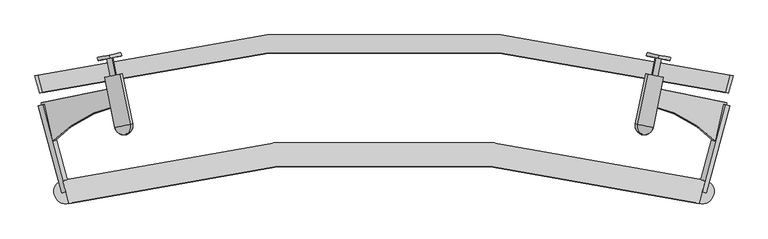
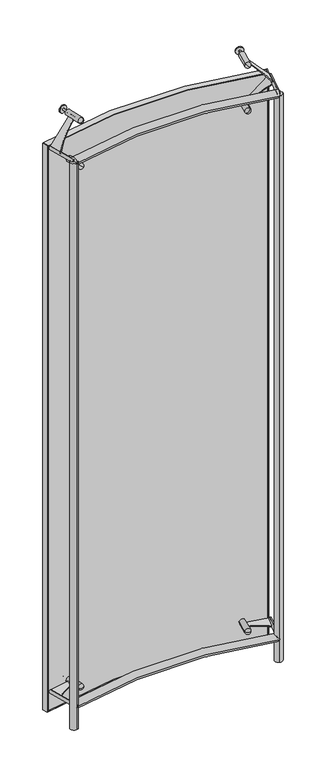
"""IFC4 building model written with IfcOpenShell, lengths in millimetres: plate geometry, CONVEX_SPIDER : CONVEX_SPIDER."""

from ifc_helpers import new_model, si_unit, point, frame, frame_2d, origin, origin_with_axes, place, context, project, spatial, polyline, circle_curve, ellipse_curve, trimmed, segment, composite_curve, outline, extrude, source, transform, mapped, element, save
from ifc_brep_helpers import plane_surface, cylinder_surface, revolved_surface, advanced_brep


def plate_ec1fb357(model_context):
    return source(origin(), model_context, "Body", "SolidModel", [
        extrude(outline(composite_curve([segment(polyline([(-30.0, 0.0), (0.0, 0.0)]), True, "CONTINUOUS"), segment(trimmed(circle_curve(frame_2d((375.1980995, -8.229243)), 375.2883348), [point((0.0, 0.0))], [point((39.9999999, -177.0))], True, "CARTESIAN"), True, "CONTINUOUS"), segment(polyline([(39.9999999, -177.0), (-30.0, -177.0), (-30.0, 0.0)]), True, "CONTINUOUS")], self_intersect=False)), frame((-439.3509091, -48.2745444, 3228.232233), z_axis=(-0.692345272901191, -0.14372899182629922, 0.7071067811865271), x_axis=(0.2032634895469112, -0.9791240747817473, 0.0)), (0.0, 0.0, 1.0), 5.0),
        advanced_brep(
        [(-457.3428515, 29.6960591, 3230.0), (-460.8045778, 28.9774141, 3226.4644661), (-453.8811251, 30.4147041, 3233.5355339), (-440.8597677, 2.4782717, 3240.6066017), (-461.6301259, -1.833598, 3219.3933983), (-444.3527293, -85.0591444, 3219.3933983), (-423.5823711, -80.7472746, 3240.6066017), (-447.7832204, 1.0409818, 3233.5355339), (-454.7066732, -0.3963081, 3226.4644661), (-430.9185978, -97.5900706, 3230.0)],
        [
            (0, 1),
            (1, 2, circle_curve(frame((-457.3428515, 29.6960591, 3230.0), z_axis=(-0.20326348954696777, 0.9791240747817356, 0.0), x_axis=(-0.6923452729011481, -0.14372899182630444, -0.707106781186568)), 5.0)),
            (2, 0),
            (2, 1, circle_curve(frame((-457.3428515, 29.6960591, 3230.0), z_axis=(-0.20326348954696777, 0.9791240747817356, 0.0), x_axis=(-0.6923452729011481, -0.14372899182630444, -0.707106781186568)), 5.0)),
            (3, 4, circle_curve(frame((-451.2449468, 0.3223369, 3230.0), z_axis=(0.20326348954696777, -0.9791240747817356, 0.0), x_axis=(-0.6923452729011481, -0.14372899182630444, -0.707106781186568)), 15.0)),
            (4, 5),
            (5, 6, circle_curve(frame((-433.9675502, -82.9032095, 3230.0), z_axis=(-0.20326348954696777, 0.9791240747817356, 0.0), x_axis=(-0.6923452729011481, -0.14372899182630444, -0.707106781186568)), 15.0)),
            (6, 3),
            (4, 3, circle_curve(frame((-451.2449468, 0.3223369, 3230.0), z_axis=(0.20326348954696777, -0.9791240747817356, 0.0), x_axis=(-0.6923452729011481, -0.14372899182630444, -0.707106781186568)), 15.0)),
            (6, 5, circle_curve(frame((-433.9675502, -82.9032095, 3230.0), z_axis=(-0.20326348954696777, 0.9791240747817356, 0.0), x_axis=(-0.6923452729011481, -0.14372899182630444, -0.707106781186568)), 15.0)),
            (7, 8, circle_curve(frame((-451.2449468, 0.3223369, 3230.0), z_axis=(0.20326348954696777, -0.9791240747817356, 0.0), x_axis=(-0.6923452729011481, -0.14372899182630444, -0.707106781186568)), 5.0)),
            (8, 4),
            (3, 7),
            (8, 7, circle_curve(frame((-451.2449468, 0.3223369, 3230.0), z_axis=(0.20326348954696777, -0.9791240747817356, 0.0), x_axis=(-0.6923452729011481, -0.14372899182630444, -0.707106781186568)), 5.0)),
            (1, 8),
            (7, 2),
            (5, 9, circle_curve(frame((-433.9675502, -82.9032095, 3230.0), z_axis=(-0.6923452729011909, -0.1437289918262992, 0.707106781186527), x_axis=(-0.6923452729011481, -0.14372899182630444, -0.707106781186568)), 15.0)),
            (9, 6, circle_curve(frame((-433.9675502, -82.9032095, 3230.0), z_axis=(-0.6923452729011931, -0.14372899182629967, 0.7071067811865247), x_axis=(0.6923452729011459, 0.14372899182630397, 0.7071067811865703)), 15.0)),
        ],
        [
            plane_surface(frame((-457.3428515, 29.6960591, 3230.0), z_axis=(-0.20326348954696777, 0.9791240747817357, 0.0), x_axis=(-0.6923452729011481, -0.14372899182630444, -0.707106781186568))),
            cylinder_surface(frame((-509.1750413, 279.3726982, 3230.0), z_axis=(-0.20326348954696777, 0.9791240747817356, 0.0), x_axis=(-0.6923452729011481, -0.14372899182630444, -0.707106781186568)), 15.0),
            plane_surface(frame((-451.2449468, 0.3223369, 3230.0), z_axis=(-0.20326348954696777, 0.9791240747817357, 0.0), x_axis=(-0.6923452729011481, -0.14372899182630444, -0.707106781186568))),
            cylinder_surface(frame((-509.1750413, 279.3726982, 3230.0), z_axis=(-0.20326348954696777, 0.9791240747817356, 0.0), x_axis=(-0.6923452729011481, -0.14372899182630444, -0.707106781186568)), 5.0),
            revolved_surface(trimmed(ellipse_curve(frame((-433.9675502, -82.9032095, 3230.0), z_axis=(0.6923452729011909, 0.1437289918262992, -0.707106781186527), x_axis=(-0.6923452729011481, -0.14372899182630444, -0.707106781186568)), 15.0, 15.0), [point((-430.9185978, -97.5900706, 3230.0))], [point((-444.3527293, -85.0591444, 3219.3933983))], True, "CARTESIAN"), (-509.1750413, 279.3726982, 3230.0), (-0.20326348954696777, 0.9791240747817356, 0.0)),
        ],
        [
            (0, [[1, 2, 3]]),
            (0, [[-3, 4, -1]]),
            (1, [[5, 6, 7, 8]]),
            (1, [[9, -8, 10, -6]]),
            (2, [[11, 12, -5, 13]]),
            (2, [[14, -13, -9, -12]]),
            (3, [[-2, 15, -11, 16]]),
            (3, [[-4, -16, -14, -15]]),
            (4, [[-7, 17, 18]]),
            (4, [[-10, -18, -17]]),
        ],
    ),
        extrude(outline(composite_curve([segment(polyline([(-30.0, 0.0), (-30.0, 177.0), (39.9999999, 177.0)]), True, "CONTINUOUS"), segment(trimmed(circle_curve(frame_2d((375.1980995, 8.229243)), 375.2883348), [point((39.9999999, 177.0))], [point((0.0, 0.0))], True, "CARTESIAN"), True, "CONTINUOUS"), segment(polyline([(0.0, 0.0), (-30.0, 0.0)]), True, "CONTINUOUS")], self_intersect=False)), frame((439.3509091, -48.2745444, 3228.232233), z_axis=(0.6923452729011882, -0.14372899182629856, 0.7071067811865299), x_axis=(-0.2032634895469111, -0.9791240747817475, 0.0)), (0.0, 0.0, 1.0), 5.0),
        advanced_brep(
        [(457.3428515, 29.6960591, 3230.0), (453.8811251, 30.4147041, 3233.5355339), (460.8045778, 28.9774141, 3226.4644661), (440.8597677, 2.4782717, 3240.6066017), (423.5823711, -80.7472746, 3240.6066017), (444.3527293, -85.0591444, 3219.3933983), (461.6301259, -1.833598, 3219.3933983), (447.7832204, 1.0409818, 3233.5355339), (454.7066732, -0.3963081, 3226.4644661), (430.9185978, -97.5900706, 3230.0)],
        [
            (0, 1),
            (1, 2, circle_curve(frame((457.3428515, 29.6960591, 3230.0), z_axis=(0.20326348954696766, 0.9791240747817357, 0.0), x_axis=(0.6923452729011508, -0.1437289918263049, -0.7071067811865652)), 5.0)),
            (2, 0),
            (2, 1, circle_curve(frame((457.3428515, 29.6960591, 3230.0), z_axis=(0.20326348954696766, 0.9791240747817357, 0.0), x_axis=(0.6923452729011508, -0.1437289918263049, -0.7071067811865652)), 5.0)),
            (3, 4),
            (4, 5, circle_curve(frame((433.9675502, -82.9032095, 3230.0), z_axis=(0.20326348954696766, 0.9791240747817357, 0.0), x_axis=(0.6923452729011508, -0.1437289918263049, -0.7071067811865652)), 15.0)),
            (5, 6),
            (6, 3, circle_curve(frame((451.2449468, 0.3223369, 3230.0), z_axis=(-0.20326348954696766, -0.9791240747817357, 0.0), x_axis=(0.6923452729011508, -0.1437289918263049, -0.7071067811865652)), 15.0)),
            (5, 4, circle_curve(frame((433.9675502, -82.9032095, 3230.0), z_axis=(0.20326348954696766, 0.9791240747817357, 0.0), x_axis=(0.6923452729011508, -0.1437289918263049, -0.7071067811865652)), 15.0)),
            (3, 6, circle_curve(frame((451.2449468, 0.3223369, 3230.0), z_axis=(-0.20326348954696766, -0.9791240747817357, 0.0), x_axis=(0.6923452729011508, -0.1437289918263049, -0.7071067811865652)), 15.0)),
            (7, 3),
            (6, 8),
            (8, 7, circle_curve(frame((451.2449468, 0.3223369, 3230.0), z_axis=(-0.20326348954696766, -0.9791240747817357, 0.0), x_axis=(0.6923452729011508, -0.1437289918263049, -0.7071067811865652)), 5.0)),
            (7, 8, circle_curve(frame((451.2449468, 0.3223369, 3230.0), z_axis=(-0.20326348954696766, -0.9791240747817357, 0.0), x_axis=(0.6923452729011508, -0.1437289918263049, -0.7071067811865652)), 5.0)),
            (1, 7),
            (8, 2),
            (4, 9, circle_curve(frame((433.9675502, -82.9032095, 3230.0), z_axis=(0.6923452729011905, -0.14372899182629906, 0.7071067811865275), x_axis=(-0.6923452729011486, 0.14372899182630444, 0.7071067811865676)), 15.0)),
            (9, 5, circle_curve(frame((433.9675502, -82.9032095, 3230.0), z_axis=(0.6923452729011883, -0.14372899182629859, 0.7071067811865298), x_axis=(0.6923452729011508, -0.1437289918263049, -0.7071067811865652)), 15.0)),
        ],
        [
            plane_surface(frame((457.3428515, 29.6960591, 3230.0), z_axis=(0.20326348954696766, 0.9791240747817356, 0.0), x_axis=(0.6923452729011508, -0.1437289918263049, -0.7071067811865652))),
            cylinder_surface(frame((509.1750413, 279.3726982, 3230.0), z_axis=(0.20326348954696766, 0.9791240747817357, 0.0), x_axis=(0.6923452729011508, -0.1437289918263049, -0.7071067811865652)), 15.0),
            plane_surface(frame((451.2449468, 0.3223369, 3230.0), z_axis=(0.20326348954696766, 0.9791240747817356, 0.0), x_axis=(0.6923452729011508, -0.1437289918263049, -0.7071067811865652))),
            cylinder_surface(frame((509.1750413, 279.3726982, 3230.0), z_axis=(0.20326348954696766, 0.9791240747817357, 0.0), x_axis=(0.6923452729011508, -0.1437289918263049, -0.7071067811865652)), 5.0),
            revolved_surface(trimmed(ellipse_curve(frame((433.9675502, -82.9032095, 3230.0), z_axis=(0.6923452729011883, -0.14372899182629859, 0.7071067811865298), x_axis=(0.6923452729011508, -0.1437289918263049, -0.7071067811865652)), 15.0, 15.0), [point((430.9185978, -97.5900706, 3230.0))], [point((444.3527293, -85.0591444, 3219.3933983))], True, "CARTESIAN"), (509.1750413, 279.3726982, 3230.0), (0.20326348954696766, 0.9791240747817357, 0.0)),
        ],
        [
            (0, [[1, 2, 3]]),
            (0, [[-3, 4, -1]]),
            (1, [[5, 6, 7, 8]]),
            (1, [[-7, 9, -5, 10]]),
            (2, [[11, -8, 12, 13]]),
            (2, [[-12, -10, -11, 14]]),
            (3, [[15, -13, 16, -2]]),
            (3, [[-16, -14, -15, -4]]),
            (4, [[17, 18, -6]]),
            (4, [[-18, -17, -9]]),
        ],
    ),
        extrude(outline(composite_curve([segment(polyline([(30.0000001, 0.0), (30.0, -177.0), (-40.0, -177.0)]), True, "CONTINUOUS"), segment(trimmed(circle_curve(frame_2d((-375.1980994, -8.2292431)), 375.2883348), [point((-40.0, -177.0))], [point((0.0, 0.0))], True, "CARTESIAN"), True, "CONTINUOUS"), segment(polyline([(0.0, 0.0), (30.0000001, 0.0)]), True, "CONTINUOUS")], self_intersect=False)), frame((442.8126355, -48.9931894, 2978.232233), z_axis=(-0.6923452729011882, 0.14372899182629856, 0.7071067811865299), x_axis=(0.2032634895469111, 0.9791240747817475, 0.0)), (0.0, 0.0, 1.0), 5.0),
        advanced_brep(
        [(457.3428515, 29.6960591, 2980.0), (460.8045778, 28.9774141, 2983.5355339), (453.8811251, 30.4147041, 2976.4644661), (440.8597677, 2.4782717, 2969.3933983), (461.6301259, -1.833598, 2990.6066017), (444.3527293, -85.0591444, 2990.6066017), (423.5823711, -80.7472746, 2969.3933983), (447.7832204, 1.0409818, 2976.4644661), (454.7066732, -0.3963081, 2983.5355339), (430.9185978, -97.5900706, 2980.0)],
        [
            (0, 1),
            (1, 2, circle_curve(frame((457.3428515, 29.6960591, 2980.0), z_axis=(0.20326348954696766, 0.9791240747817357, 0.0), x_axis=(0.6923452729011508, -0.1437289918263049, 0.7071067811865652)), 5.0)),
            (2, 0),
            (2, 1, circle_curve(frame((457.3428515, 29.6960591, 2980.0), z_axis=(0.20326348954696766, 0.9791240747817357, 0.0), x_axis=(0.6923452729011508, -0.1437289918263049, 0.7071067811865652)), 5.0)),
            (3, 4, circle_curve(frame((451.2449468, 0.3223369, 2980.0), z_axis=(-0.20326348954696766, -0.9791240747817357, 0.0), x_axis=(0.6923452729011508, -0.1437289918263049, 0.7071067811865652)), 15.0)),
            (4, 5),
            (5, 6, circle_curve(frame((433.9675502, -82.9032095, 2980.0), z_axis=(0.20326348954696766, 0.9791240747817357, 0.0), x_axis=(0.6923452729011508, -0.1437289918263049, 0.7071067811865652)), 15.0)),
            (6, 3),
            (4, 3, circle_curve(frame((451.2449468, 0.3223369, 2980.0), z_axis=(-0.20326348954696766, -0.9791240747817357, 0.0), x_axis=(0.6923452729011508, -0.1437289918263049, 0.7071067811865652)), 15.0)),
            (6, 5, circle_curve(frame((433.9675502, -82.9032095, 2980.0), z_axis=(0.20326348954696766, 0.9791240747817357, 0.0), x_axis=(0.6923452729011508, -0.1437289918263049, 0.7071067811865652)), 15.0)),
            (7, 8, circle_curve(frame((451.2449468, 0.3223369, 2980.0), z_axis=(-0.20326348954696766, -0.9791240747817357, 0.0), x_axis=(0.6923452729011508, -0.1437289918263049, 0.7071067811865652)), 5.0)),
            (8, 4),
            (3, 7),
            (8, 7, circle_curve(frame((451.2449468, 0.3223369, 2980.0), z_axis=(-0.20326348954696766, -0.9791240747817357, 0.0), x_axis=(0.6923452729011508, -0.1437289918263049, 0.7071067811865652)), 5.0)),
            (1, 8),
            (7, 2),
            (5, 9, circle_curve(frame((433.9675502, -82.9032095, 2980.0), z_axis=(0.6923452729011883, -0.14372899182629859, -0.7071067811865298), x_axis=(0.6923452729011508, -0.1437289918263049, 0.7071067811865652)), 15.0)),
            (9, 6, circle_curve(frame((433.9675502, -82.9032095, 2980.0), z_axis=(0.6923452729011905, -0.14372899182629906, -0.7071067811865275), x_axis=(-0.6923452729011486, 0.14372899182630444, -0.7071067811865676)), 15.0)),
        ],
        [
            plane_surface(frame((457.3428515, 29.6960591, 2980.0), z_axis=(0.20326348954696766, 0.9791240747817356, 0.0), x_axis=(0.6923452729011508, -0.1437289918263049, 0.7071067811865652))),
            cylinder_surface(frame((509.1750413, 279.3726982, 2980.0), z_axis=(0.20326348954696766, 0.9791240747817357, 0.0), x_axis=(0.6923452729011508, -0.1437289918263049, 0.7071067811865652)), 15.0),
            plane_surface(frame((451.2449468, 0.3223369, 2980.0), z_axis=(0.20326348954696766, 0.9791240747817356, 0.0), x_axis=(0.6923452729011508, -0.1437289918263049, 0.7071067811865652))),
            cylinder_surface(frame((509.1750413, 279.3726982, 2980.0), z_axis=(0.20326348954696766, 0.9791240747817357, 0.0), x_axis=(0.6923452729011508, -0.1437289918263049, 0.7071067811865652)), 5.0),
            revolved_surface(trimmed(ellipse_curve(frame((433.9675502, -82.9032095, 2980.0), z_axis=(-0.6923452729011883, 0.14372899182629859, 0.7071067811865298), x_axis=(0.6923452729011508, -0.1437289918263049, 0.7071067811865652)), 15.0, 15.0), [point((430.9185978, -97.5900706, 2980.0))], [point((444.3527293, -85.0591444, 2990.6066017))], True, "CARTESIAN"), (509.1750413, 279.3726982, 2980.0), (0.20326348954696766, 0.9791240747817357, 0.0)),
        ],
        [
            (0, [[1, 2, 3]]),
            (0, [[-3, 4, -1]]),
            (1, [[5, 6, 7, 8]]),
            (1, [[9, -8, 10, -6]]),
            (2, [[11, 12, -5, 13]]),
            (2, [[14, -13, -9, -12]]),
            (3, [[-2, 15, -11, 16]]),
            (3, [[-4, -16, -14, -15]]),
            (4, [[-7, 17, 18]]),
            (4, [[-10, -18, -17]]),
        ],
    ),
        extrude(outline(composite_curve([segment(polyline([(30.0000001, 0.0), (0.0, 0.0)]), True, "CONTINUOUS"), segment(trimmed(circle_curve(frame_2d((-375.1980994, 8.2292431)), 375.2883348), [point((0.0, 0.0))], [point((-40.0, 177.0))], True, "CARTESIAN"), True, "CONTINUOUS"), segment(polyline([(-40.0, 177.0), (30.0, 177.0), (30.0000001, 0.0)]), True, "CONTINUOUS")], self_intersect=False)), frame((-442.8126355, -48.9931894, 2978.232233), z_axis=(0.692345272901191, 0.14372899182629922, 0.7071067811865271), x_axis=(-0.2032634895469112, 0.9791240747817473, 0.0)), (0.0, 0.0, 1.0), 5.0),
        advanced_brep(
        [(-457.3428515, 29.6960591, 2980.0), (-453.8811251, 30.4147041, 2976.4644661), (-460.8045778, 28.9774141, 2983.5355339), (-440.8597677, 2.4782717, 2969.3933983), (-423.5823711, -80.7472746, 2969.3933983), (-444.3527293, -85.0591444, 2990.6066017), (-461.6301259, -1.833598, 2990.6066017), (-447.7832204, 1.0409818, 2976.4644661), (-454.7066732, -0.3963081, 2983.5355339), (-430.9185978, -97.5900706, 2980.0)],
        [
            (0, 1),
            (1, 2, circle_curve(frame((-457.3428515, 29.6960591, 2980.0), z_axis=(-0.20326348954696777, 0.9791240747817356, 0.0), x_axis=(-0.6923452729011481, -0.14372899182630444, 0.707106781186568)), 5.0)),
            (2, 0),
            (2, 1, circle_curve(frame((-457.3428515, 29.6960591, 2980.0), z_axis=(-0.20326348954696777, 0.9791240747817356, 0.0), x_axis=(-0.6923452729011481, -0.14372899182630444, 0.707106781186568)), 5.0)),
            (3, 4),
            (4, 5, circle_curve(frame((-433.9675502, -82.9032095, 2980.0), z_axis=(-0.20326348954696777, 0.9791240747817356, 0.0), x_axis=(-0.6923452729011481, -0.14372899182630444, 0.707106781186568)), 15.0)),
            (5, 6),
            (6, 3, circle_curve(frame((-451.2449468, 0.3223369, 2980.0), z_axis=(0.20326348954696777, -0.9791240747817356, 0.0), x_axis=(-0.6923452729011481, -0.14372899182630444, 0.707106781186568)), 15.0)),
            (5, 4, circle_curve(frame((-433.9675502, -82.9032095, 2980.0), z_axis=(-0.20326348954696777, 0.9791240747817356, 0.0), x_axis=(-0.6923452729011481, -0.14372899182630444, 0.707106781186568)), 15.0)),
            (3, 6, circle_curve(frame((-451.2449468, 0.3223369, 2980.0), z_axis=(0.20326348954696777, -0.9791240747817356, 0.0), x_axis=(-0.6923452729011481, -0.14372899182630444, 0.707106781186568)), 15.0)),
            (7, 3),
            (6, 8),
            (8, 7, circle_curve(frame((-451.2449468, 0.3223369, 2980.0), z_axis=(0.20326348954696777, -0.9791240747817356, 0.0), x_axis=(-0.6923452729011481, -0.14372899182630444, 0.707106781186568)), 5.0)),
            (7, 8, circle_curve(frame((-451.2449468, 0.3223369, 2980.0), z_axis=(0.20326348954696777, -0.9791240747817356, 0.0), x_axis=(-0.6923452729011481, -0.14372899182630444, 0.707106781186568)), 5.0)),
            (1, 7),
            (8, 2),
            (4, 9, circle_curve(frame((-433.9675502, -82.9032095, 2980.0), z_axis=(-0.6923452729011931, -0.14372899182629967, -0.7071067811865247), x_axis=(0.6923452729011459, 0.14372899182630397, -0.7071067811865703)), 15.0)),
            (9, 5, circle_curve(frame((-433.9675502, -82.9032095, 2980.0), z_axis=(-0.6923452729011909, -0.1437289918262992, -0.707106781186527), x_axis=(-0.6923452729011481, -0.14372899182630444, 0.707106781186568)), 15.0)),
        ],
        [
            plane_surface(frame((-457.3428515, 29.6960591, 2980.0), z_axis=(-0.20326348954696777, 0.9791240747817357, 0.0), x_axis=(-0.6923452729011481, -0.14372899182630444, 0.707106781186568))),
            cylinder_surface(frame((-509.1750413, 279.3726982, 2980.0), z_axis=(-0.20326348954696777, 0.9791240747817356, 0.0), x_axis=(-0.6923452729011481, -0.14372899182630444, 0.707106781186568)), 15.0),
            plane_surface(frame((-451.2449468, 0.3223369, 2980.0), z_axis=(-0.20326348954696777, 0.9791240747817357, 0.0), x_axis=(-0.6923452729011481, -0.14372899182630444, 0.707106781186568))),
            cylinder_surface(frame((-509.1750413, 279.3726982, 2980.0), z_axis=(-0.20326348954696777, 0.9791240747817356, 0.0), x_axis=(-0.6923452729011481, -0.14372899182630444, 0.707106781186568)), 5.0),
            revolved_surface(trimmed(ellipse_curve(frame((-433.9675502, -82.9032095, 2980.0), z_axis=(-0.6923452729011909, -0.1437289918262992, -0.707106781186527), x_axis=(-0.6923452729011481, -0.14372899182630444, 0.707106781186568)), 15.0, 15.0), [point((-430.9185978, -97.5900706, 2980.0))], [point((-444.3527293, -85.0591444, 2990.6066017))], True, "CARTESIAN"), (-509.1750413, 279.3726982, 2980.0), (-0.20326348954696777, 0.9791240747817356, 0.0)),
        ],
        [
            (0, [[1, 2, 3]]),
            (0, [[-3, 4, -1]]),
            (1, [[5, 6, 7, 8]]),
            (1, [[-7, 9, -5, 10]]),
            (2, [[11, -8, 12, 13]]),
            (2, [[-12, -10, -11, 14]]),
            (3, [[15, -13, 16, -2]]),
            (3, [[-16, -14, -15, -4]]),
            (4, [[17, 18, -6]]),
            (4, [[-18, -17, -9]]),
        ],
    ),
        extrude(outline(composite_curve([segment(polyline([(447.179677, -19.2601446), (569.5701864, -44.6680808), (555.3417421, -113.2067661)]), True, "CONTINUOUS"), segment(trimmed(circle_curve(frame_2d((390.5270633, -271.4654216)), 228.4943772), [point((555.3417421, -113.2067661))], [point((441.0817723, -48.6338669))], True, "CARTESIAN"), True, "CONTINUOUS"), segment(polyline([(441.0817723, -48.6338669), (447.179677, -19.2601446)]), True, "CONTINUOUS")], self_intersect=False)), frame((0.0, 0.0, 122.5), z_axis=(0.0, 0.0, 1.0), x_axis=(1.0, 0.0, 0.0)), (0.0, 0.0, 1.0), 5.0),
        advanced_brep(
        [(457.3428515, 29.6960591, 125.0), (462.2384719, 28.6797417, 125.0), (452.4472311, 30.7123766, 125.0), (436.5580857, 3.3712892, 125.0), (465.9318079, -2.7266155, 125.0), (448.6544113, -85.9521618, 125.0), (419.2806891, -79.8542571, 125.0), (446.3493264, 1.3386543, 125.0), (456.1405672, -0.6939806, 125.0), (430.9185978, -97.5900706, 125.0)],
        [
            (0, 1),
            (1, 2, circle_curve(frame((457.3428515, 29.6960591, 125.0), z_axis=(0.20326348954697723, 0.9791240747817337, 0.0), x_axis=(0.9791240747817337, -0.20326348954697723, 0.0)), 5.0)),
            (2, 0),
            (2, 1, circle_curve(frame((457.3428515, 29.6960591, 125.0), z_axis=(0.20326348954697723, 0.9791240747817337, 0.0), x_axis=(0.9791240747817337, -0.20326348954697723, 0.0)), 5.0)),
            (3, 4, circle_curve(frame((451.2449468, 0.3223369, 125.0), z_axis=(-0.20326348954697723, -0.9791240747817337, 0.0), x_axis=(0.9791240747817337, -0.20326348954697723, 0.0)), 15.0)),
            (4, 5),
            (5, 6, circle_curve(frame((433.9675502, -82.9032095, 125.0), z_axis=(0.20326348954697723, 0.9791240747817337, 0.0), x_axis=(0.9791240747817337, -0.20326348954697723, 0.0)), 15.0)),
            (6, 3),
            (4, 3, circle_curve(frame((451.2449468, 0.3223369, 125.0), z_axis=(-0.20326348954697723, -0.9791240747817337, 0.0), x_axis=(0.9791240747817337, -0.20326348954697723, 0.0)), 15.0)),
            (6, 5, circle_curve(frame((433.9675502, -82.9032095, 125.0), z_axis=(0.20326348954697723, 0.9791240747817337, 0.0), x_axis=(0.9791240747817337, -0.20326348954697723, 0.0)), 15.0)),
            (7, 8, circle_curve(frame((451.2449468, 0.3223369, 125.0), z_axis=(-0.20326348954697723, -0.9791240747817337, 0.0), x_axis=(0.9791240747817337, -0.20326348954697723, 0.0)), 5.0)),
            (8, 4),
            (3, 7),
            (8, 7, circle_curve(frame((451.2449468, 0.3223369, 125.0), z_axis=(-0.20326348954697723, -0.9791240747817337, 0.0), x_axis=(0.9791240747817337, -0.20326348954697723, 0.0)), 5.0)),
            (1, 8),
            (7, 2),
            (5, 9, circle_curve(frame((433.9675502, -82.9032095, 125.0), z_axis=(0.0, 0.0, -1.0000000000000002), x_axis=(0.9791240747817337, -0.20326348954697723, 0.0)), 15.0)),
            (9, 6, circle_curve(frame((433.9675502, -82.9032095, 125.0), z_axis=(0.0, 0.0, -1.0000000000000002), x_axis=(-0.9791240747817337, 0.20326348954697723, 0.0)), 15.0)),
        ],
        [
            plane_surface(frame((457.3428515, 29.6960591, 125.0), z_axis=(0.20326348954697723, 0.9791240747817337, 0.0), x_axis=(0.9791240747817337, -0.20326348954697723, 0.0))),
            cylinder_surface(frame((509.1750413, 279.3726982, 125.0), z_axis=(0.20326348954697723, 0.9791240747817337, 0.0), x_axis=(0.9791240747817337, -0.20326348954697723, 0.0)), 15.0),
            plane_surface(frame((451.2449468, 0.3223369, 125.0), z_axis=(0.20326348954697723, 0.9791240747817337, 0.0), x_axis=(0.9791240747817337, -0.20326348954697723, 0.0))),
            cylinder_surface(frame((509.1750413, 279.3726982, 125.0), z_axis=(0.20326348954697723, 0.9791240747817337, 0.0), x_axis=(0.9791240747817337, -0.20326348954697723, 0.0)), 5.0),
            revolved_surface(trimmed(ellipse_curve(frame((433.9675502, -82.9032095, 125.0), z_axis=(0.0, 0.0, 1.0000000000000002), x_axis=(0.9791240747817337, -0.20326348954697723, 0.0)), 15.0, 15.0), [point((430.9185978, -97.5900706, 125.0))], [point((448.6544113, -85.9521618, 125.0))], True, "CARTESIAN"), (509.1750413, 279.3726982, 125.0), (0.20326348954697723, 0.9791240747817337, 0.0)),
        ],
        [
            (0, [[1, 2, 3]]),
            (0, [[-3, 4, -1]]),
            (1, [[5, 6, 7, 8]]),
            (1, [[9, -8, 10, -6]]),
            (2, [[11, 12, -5, 13]]),
            (2, [[14, -13, -9, -12]]),
            (3, [[-2, 15, -11, 16]]),
            (3, [[-4, -16, -14, -15]]),
            (4, [[-7, 17, 18]]),
            (4, [[-10, -18, -17]]),
        ],
    ),
        extrude(outline(composite_curve([segment(polyline([(-447.179677, -19.2601446), (-441.0817723, -48.6338669)]), True, "CONTINUOUS"), segment(trimmed(circle_curve(frame_2d((-390.5270633, -271.4654216)), 228.4943772), [point((-441.0817723, -48.6338669))], [point((-555.3417421, -113.2067661))], True, "CARTESIAN"), True, "CONTINUOUS"), segment(polyline([(-555.3417421, -113.2067661), (-569.5701864, -44.6680808), (-447.179677, -19.2601446)]), True, "CONTINUOUS")], self_intersect=False)), frame((0.0, 0.0, 122.5), z_axis=(0.0, 0.0, 1.0), x_axis=(1.0, 0.0, 0.0)), (0.0, 0.0, 1.0), 5.0),
        advanced_brep(
        [(-457.3428515, 29.6960591, 125.0), (-462.2384719, 28.6797417, 125.0), (-452.4472311, 30.7123766, 125.0), (-436.5580857, 3.3712892, 125.0), (-465.9318079, -2.7266155, 125.0), (-448.6544113, -85.9521618, 125.0), (-419.2806891, -79.8542571, 125.0), (-446.3493264, 1.3386543, 125.0), (-456.1405672, -0.6939806, 125.0), (-430.9185978, -97.5900706, 125.0)],
        [
            (0, 1),
            (1, 2, circle_curve(frame((-457.3428515, 29.6960591, 125.0), z_axis=(-0.20326348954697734, 0.9791240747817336, 0.0), x_axis=(-0.9791240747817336, -0.20326348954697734, 0.0)), 5.0)),
            (2, 0),
            (2, 1, circle_curve(frame((-457.3428515, 29.6960591, 125.0), z_axis=(-0.20326348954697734, 0.9791240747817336, 0.0), x_axis=(-0.9791240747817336, -0.20326348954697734, 0.0)), 5.0)),
            (3, 4, circle_curve(frame((-451.2449468, 0.3223369, 125.0), z_axis=(0.20326348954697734, -0.9791240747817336, 0.0), x_axis=(-0.9791240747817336, -0.20326348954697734, 0.0)), 15.0)),
            (4, 5),
            (5, 6, circle_curve(frame((-433.9675502, -82.9032095, 125.0), z_axis=(-0.20326348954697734, 0.9791240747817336, 0.0), x_axis=(-0.9791240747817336, -0.20326348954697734, 0.0)), 15.0)),
            (6, 3),
            (4, 3, circle_curve(frame((-451.2449468, 0.3223369, 125.0), z_axis=(0.20326348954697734, -0.9791240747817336, 0.0), x_axis=(-0.9791240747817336, -0.20326348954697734, 0.0)), 15.0)),
            (6, 5, circle_curve(frame((-433.9675502, -82.9032095, 125.0), z_axis=(-0.20326348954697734, 0.9791240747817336, 0.0), x_axis=(-0.9791240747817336, -0.20326348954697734, 0.0)), 15.0)),
            (7, 8, circle_curve(frame((-451.2449468, 0.3223369, 125.0), z_axis=(0.20326348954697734, -0.9791240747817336, 0.0), x_axis=(-0.9791240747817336, -0.20326348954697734, 0.0)), 5.0)),
            (8, 4),
            (3, 7),
            (8, 7, circle_curve(frame((-451.2449468, 0.3223369, 125.0), z_axis=(0.20326348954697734, -0.9791240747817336, 0.0), x_axis=(-0.9791240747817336, -0.20326348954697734, 0.0)), 5.0)),
            (1, 8),
            (7, 2),
            (5, 9, circle_curve(frame((-433.9675502, -82.9032095, 125.0), z_axis=(0.0, 0.0, 1.0), x_axis=(-0.9791240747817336, -0.20326348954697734, 0.0)), 15.0)),
            (9, 6, circle_curve(frame((-433.9675502, -82.9032095, 125.0), z_axis=(0.0, 0.0, 1.0), x_axis=(0.9791240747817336, 0.20326348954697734, 0.0)), 15.0)),
        ],
        [
            plane_surface(frame((-457.3428515, 29.6960591, 125.0), z_axis=(-0.20326348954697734, 0.9791240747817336, 0.0), x_axis=(-0.9791240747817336, -0.20326348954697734, 0.0))),
            cylinder_surface(frame((-509.1750413, 279.3726982, 125.0), z_axis=(-0.20326348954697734, 0.9791240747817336, 0.0), x_axis=(-0.9791240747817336, -0.20326348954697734, 0.0)), 15.0),
            plane_surface(frame((-451.2449468, 0.3223369, 125.0), z_axis=(-0.20326348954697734, 0.9791240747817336, 0.0), x_axis=(-0.9791240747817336, -0.20326348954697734, 0.0))),
            cylinder_surface(frame((-509.1750413, 279.3726982, 125.0), z_axis=(-0.20326348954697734, 0.9791240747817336, 0.0), x_axis=(-0.9791240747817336, -0.20326348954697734, 0.0)), 5.0),
            revolved_surface(trimmed(ellipse_curve(frame((-433.9675502, -82.9032095, 125.0), z_axis=(0.0, 0.0, -1.0), x_axis=(-0.9791240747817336, -0.20326348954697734, 0.0)), 15.0, 15.0), [point((-430.9185978, -97.5900706, 125.0))], [point((-448.6544113, -85.9521618, 125.0))], True, "CARTESIAN"), (-509.1750413, 279.3726982, 125.0), (-0.20326348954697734, 0.9791240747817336, 0.0)),
        ],
        [
            (0, [[1, 2, 3]]),
            (0, [[-3, 4, -1]]),
            (1, [[5, 6, 7, 8]]),
            (1, [[9, -8, 10, -6]]),
            (2, [[11, 12, -5, 13]]),
            (2, [[14, -13, -9, -12]]),
            (3, [[-2, 15, -11, 16]]),
            (3, [[-4, -16, -14, -15]]),
            (4, [[-7, 17, 18]]),
            (4, [[-10, -18, -17]]),
        ],
    ),
        extrude(outline(composite_curve([segment(trimmed(circle_curve(frame_2d((0.0, -7.5)), 7.5), [point((0.0, -15.0))], [point((0.0, 0.0))], False, "CARTESIAN"), True, "CONTINUOUS"), segment(trimmed(circle_curve(frame_2d((0.0, -7.5)), 7.5), [point((0.0, 0.0))], [point((0.0, -15.0))], False, "CARTESIAN"), True, "CONTINUOUS")], self_intersect=False)), frame((-530.5790425, -193.1851653, 3112.5), z_axis=(-0.258819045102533, 0.9659258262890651, 0.0), x_axis=(-0.9659258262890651, -0.258819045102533, 0.0)), (0.0, 0.0, 1.0), 150.0),
        extrude(outline(composite_curve([segment(trimmed(circle_curve(frame_2d((0.0, -7.5)), 7.5), [point((0.0, -15.0))], [point((0.0, 0.0))], False, "CARTESIAN"), True, "CONTINUOUS"), segment(trimmed(circle_curve(frame_2d((0.0, -7.5)), 7.5), [point((0.0, 0.0))], [point((0.0, -15.0))], False, "CARTESIAN"), True, "CONTINUOUS")], self_intersect=False)), frame((530.5392996, -193.1745162, 3112.5), z_axis=(0.2588190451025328, 0.9659258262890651, 0.0), x_axis=(-0.9659258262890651, 0.2588190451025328, 0.0)), (0.0, 0.0, 1.0), 150.0),
        extrude(outline(composite_curve([segment(trimmed(circle_curve(frame_2d((0.0, -20.0)), 20.0), [point((0.0, -40.0))], [point((0.0, 0.0))], False, "CARTESIAN"), True, "CONTINUOUS"), segment(trimmed(circle_curve(frame_2d((0.0, -20.0)), 20.0), [point((0.0, 0.0))], [point((0.0, -40.0))], False, "CARTESIAN"), True, "CONTINUOUS")], self_intersect=False)), frame((-457.3428515, 29.6960591, 3000.0), z_axis=(-0.20326348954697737, 0.9791240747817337, 0.0), x_axis=(-0.9791240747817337, -0.20326348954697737, 0.0)), (0.0, 0.0, 1.0), 5.0),
        extrude(outline(composite_curve([segment(trimmed(circle_curve(frame_2d((0.0, 230.0)), 20.0), [point((0.0, 210.0))], [point((0.0, 250.0))], False, "CARTESIAN"), True, "CONTINUOUS"), segment(trimmed(circle_curve(frame_2d((0.0, 230.0)), 20.0), [point((0.0, 250.0))], [point((0.0, 210.0))], False, "CARTESIAN"), True, "CONTINUOUS")], self_intersect=False)), frame((-457.3428515, 29.6960591, 3000.0), z_axis=(-0.20326348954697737, 0.9791240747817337, 0.0), x_axis=(-0.9791240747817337, -0.20326348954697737, 0.0)), (0.0, 0.0, 1.0), 5.0),
        extrude(outline(composite_curve([segment(trimmed(circle_curve(frame_2d((0.0, -20.0)), 20.0), [point((0.0, -40.0))], [point((0.0, 0.0))], False, "CARTESIAN"), True, "CONTINUOUS"), segment(trimmed(circle_curve(frame_2d((0.0, -20.0)), 20.0), [point((0.0, 0.0))], [point((0.0, -40.0))], False, "CARTESIAN"), True, "CONTINUOUS")], self_intersect=False)), frame((457.3428515, 29.6960591, 3000.0), z_axis=(0.20326348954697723, 0.9791240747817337, 0.0), x_axis=(-0.9791240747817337, 0.20326348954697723, 0.0)), (0.0, 0.0, 1.0), 5.0),
        extrude(outline(composite_curve([segment(trimmed(circle_curve(frame_2d((0.0, 230.0)), 20.0), [point((0.0, 210.0))], [point((0.0, 250.0))], False, "CARTESIAN"), True, "CONTINUOUS"), segment(trimmed(circle_curve(frame_2d((0.0, 230.0)), 20.0), [point((0.0, 250.0))], [point((0.0, 210.0))], False, "CARTESIAN"), True, "CONTINUOUS")], self_intersect=False)), frame((457.3428515, 29.6960591, 3000.0), z_axis=(0.20326348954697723, 0.9791240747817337, 0.0), x_axis=(-0.9791240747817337, 0.20326348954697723, 0.0)), (0.0, 0.0, 1.0), 5.0),
        extrude(outline(polyline([(582.1754441, 0.0506012), (574.4775394, -28.9449548), (569.6449468, -27.6619707), (577.3428515, 1.3335853), (582.1754441, 0.0506012)])), origin_with_axes(), (0.0, 0.0, 1.0), 3105.0),
        extrude(outline(polyline([(-574.4775394, -28.9449548), (-582.1754441, 0.0506012), (-577.3428515, 1.3335853), (-569.6449468, -27.6619707), (-574.4775394, -28.9449548)])), origin_with_axes(), (0.0, 0.0, 1.0), 3105.0),
        extrude(outline(composite_curve([segment(trimmed(circle_curve(frame_2d((0.0, -7.5)), 7.5), [point((0.0, -15.0))], [point((0.0, 0.0))], False, "CARTESIAN"), True, "CONTINUOUS"), segment(trimmed(circle_curve(frame_2d((0.0, -7.5)), 7.5), [point((0.0, 0.0))], [point((0.0, -15.0))], False, "CARTESIAN"), True, "CONTINUOUS")], self_intersect=False)), frame((530.5790425, -193.1851653, 132.5), z_axis=(0.2588190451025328, 0.9659258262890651, 0.0), x_axis=(-0.9659258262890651, 0.2588190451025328, 0.0)), (0.0, 0.0, 1.0), 150.0),
        extrude(outline(composite_curve([segment(trimmed(circle_curve(frame_2d((0.0, -20.0)), 20.0), [point((0.0, -40.0))], [point((0.0, 0.0))], False, "CARTESIAN"), True, "CONTINUOUS"), segment(trimmed(circle_curve(frame_2d((0.0, -20.0)), 20.0), [point((0.0, 0.0))], [point((0.0, -40.0))], False, "CARTESIAN"), True, "CONTINUOUS")], self_intersect=False)), frame((457.3428515, 29.6960591, 145.0), z_axis=(0.20326348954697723, 0.9791240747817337, 0.0), x_axis=(-0.9791240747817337, 0.20326348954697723, 0.0)), (0.0, 0.0, 1.0), 5.0),
        extrude(outline(composite_curve([segment(trimmed(circle_curve(frame_2d((0.0, -7.5)), 7.5), [point((0.0, -15.0))], [point((0.0, 0.0))], False, "CARTESIAN"), True, "CONTINUOUS"), segment(trimmed(circle_curve(frame_2d((0.0, -7.5)), 7.5), [point((0.0, 0.0))], [point((0.0, -15.0))], False, "CARTESIAN"), True, "CONTINUOUS")], self_intersect=False)), frame((-530.5790425, -193.1851653, 132.5), z_axis=(-0.25881904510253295, 0.965925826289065, 0.0), x_axis=(-0.965925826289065, -0.25881904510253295, 0.0)), (0.0, 0.0, 1.0), 150.0),
        extrude(outline(composite_curve([segment(trimmed(circle_curve(frame_2d((0.0, -20.0)), 20.0), [point((0.0, -40.0))], [point((0.0, 0.0))], False, "CARTESIAN"), True, "CONTINUOUS"), segment(trimmed(circle_curve(frame_2d((0.0, -20.0)), 20.0), [point((0.0, 0.0))], [point((0.0, -40.0))], False, "CARTESIAN"), True, "CONTINUOUS")], self_intersect=False)), frame((-457.3428515, 29.6960591, 145.0), z_axis=(-0.20326348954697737, 0.9791240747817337, 0.0), x_axis=(-0.9791240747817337, -0.20326348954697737, 0.0)), (0.0, 0.0, 1.0), 5.0),
        extrude(outline(composite_curve([segment(polyline([(577.3428515, 1.3335853), (569.6449468, -27.6619707)]), True, "CONTINUOUS"), segment(trimmed(circle_curve(frame_2d((0.0, -2173.3331092)), 2220.0), [point((569.6449468, -27.6619707))], [point((-569.6449468, -27.6619707))], True, "CARTESIAN"), True, "CONTINUOUS"), segment(polyline([(-569.6449468, -27.6619707), (-577.3428515, 1.3335853)]), True, "CONTINUOUS"), segment(trimmed(circle_curve(frame_2d((0.0, -2173.3331092)), 2250.0), [point((-577.3428515, 1.3335853))], [point((577.3428515, 1.3335853))], False, "CARTESIAN"), True, "CONTINUOUS")], self_intersect=False)), origin_with_axes(), (0.0, 0.0, 1.0), 5.0),
        extrude(outline(composite_curve([segment(trimmed(circle_curve(frame_2d((0.0, -2173.3331092)), 2220.0), [point((569.6449468, -27.6619707))], [point((-569.6449468, -27.6619707))], True, "CARTESIAN"), True, "CONTINUOUS"), segment(polyline([(-569.6449468, -27.6619707), (-577.3428515, 1.3335853)]), True, "CONTINUOUS"), segment(trimmed(circle_curve(frame_2d((0.0, -2173.3331092)), 2250.0), [point((-577.3428515, 1.3335853))], [point((577.3428515, 1.3335853))], False, "CARTESIAN"), True, "CONTINUOUS"), segment(polyline([(577.3428515, 1.3335853), (569.6449468, -27.6619707)]), True, "CONTINUOUS")], self_intersect=False)), frame((0.0, 0.0, 3100.0), z_axis=(0.0, 0.0, 1.0), x_axis=(1.0, 0.0, 0.0)), (0.0, 0.0, 1.0), 5.0),
        advanced_brep(
        [(525.4026616, -212.5036818, 3105.0), (535.7554234, -173.8666487, 3105.0), (-525.4026616, -212.5036818, 3105.0), (-535.7554234, -173.8666487, 3105.0)],
        [
            (0, 1, circle_curve(frame((530.5790425, -193.1851653, 3105.0), z_axis=(0.9659258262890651, -0.25881904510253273, 0.0), x_axis=(0.25881904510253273, 0.9659258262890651, 0.0)), 20.0)),
            (1, 0, circle_curve(frame((530.5790425, -193.1851653, 3105.0), z_axis=(0.9659258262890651, -0.25881904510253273, 0.0), x_axis=(0.25881904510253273, 0.9659258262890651, 0.0)), 20.0)),
            (2, 3, circle_curve(frame((-530.5790425, -193.1851653, 3105.0), z_axis=(-0.9659258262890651, -0.25881904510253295, 0.0), x_axis=(-0.25881904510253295, 0.9659258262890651, 0.0)), 20.0)),
            (3, 2, circle_curve(frame((-530.5790425, -193.1851653, 3105.0), z_axis=(-0.9659258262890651, -0.25881904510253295, 0.0), x_axis=(-0.25881904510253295, 0.9659258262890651, 0.0)), 20.0)),
            (3, 1, circle_curve(frame((0.0, -2173.3331092, 3105.0), z_axis=(0.0, 0.0, -1.0), x_axis=(0.25881904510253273, 0.9659258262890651, 0.0)), 2070.0)),
            (0, 2, circle_curve(frame((0.0, -2173.3331092, 3105.0), z_axis=(0.0, 0.0, 1.0), x_axis=(0.25881904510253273, 0.9659258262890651, 0.0)), 2030.0)),
        ],
        [
            plane_surface(frame((0.0, -2173.3331092, 3327.466352), z_axis=(0.9659258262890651, -0.25881904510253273, 0.0), x_axis=(0.25881904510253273, 0.9659258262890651, 0.0))),
            plane_surface(frame((0.0, -2173.3331092, 3327.466352), z_axis=(-0.9659258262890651, -0.25881904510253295, 0.0), x_axis=(-0.25881904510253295, 0.9659258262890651, 0.0))),
            revolved_surface(trimmed(ellipse_curve(frame((530.5790425, -193.1851653, 3105.0), z_axis=(0.9659258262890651, -0.25881904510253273, 0.0), x_axis=(0.25881904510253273, 0.9659258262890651, 0.0)), 20.0, 20.0), [point((525.4026616, -212.5036818, 3105.0))], [point((535.7554234, -173.8666487, 3105.0))], True, "CARTESIAN"), (0.0, -2173.3331092, 3327.466352), (0.0, 0.0, 1.0)),
            revolved_surface(trimmed(ellipse_curve(frame((530.5790425, -193.1851653, 3105.0), z_axis=(0.9659258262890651, -0.25881904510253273, 0.0), x_axis=(0.25881904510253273, 0.9659258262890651, 0.0)), 20.0, 20.0), [point((535.7554234, -173.8666487, 3105.0))], [point((525.4026616, -212.5036818, 3105.0))], True, "CARTESIAN"), (0.0, -2173.3331092, 3327.466352), (0.0, 0.0, 1.0)),
        ],
        [
            (0, [[1, 2]]),
            (1, [[3, 4]]),
            (2, [[5, -1, 6, -4]]),
            (3, [[-6, -2, -5, -3]]),
        ],
    ),
        advanced_brep(
        [(525.4026616, -212.5036818, 125.0), (535.7554234, -173.8666487, 125.0), (-525.4026616, -212.5036818, 125.0), (-535.7554234, -173.8666487, 125.0)],
        [
            (0, 1, circle_curve(frame((530.5790425, -193.1851653, 125.0), z_axis=(0.9659258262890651, -0.25881904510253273, 0.0), x_axis=(0.25881904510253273, 0.9659258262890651, 0.0)), 20.0)),
            (1, 0, circle_curve(frame((530.5790425, -193.1851653, 125.0), z_axis=(0.9659258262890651, -0.25881904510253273, 0.0), x_axis=(0.25881904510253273, 0.9659258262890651, 0.0)), 20.0)),
            (2, 3, circle_curve(frame((-530.5790425, -193.1851653, 125.0), z_axis=(-0.9659258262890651, -0.25881904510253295, 0.0), x_axis=(-0.25881904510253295, 0.9659258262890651, 0.0)), 20.0)),
            (3, 2, circle_curve(frame((-530.5790425, -193.1851653, 125.0), z_axis=(-0.9659258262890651, -0.25881904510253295, 0.0), x_axis=(-0.25881904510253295, 0.9659258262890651, 0.0)), 20.0)),
            (3, 1, circle_curve(frame((0.0, -2173.3331092, 125.0), z_axis=(0.0, 0.0, -1.0), x_axis=(0.25881904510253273, 0.9659258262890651, 0.0)), 2070.0)),
            (0, 2, circle_curve(frame((0.0, -2173.3331092, 125.0), z_axis=(0.0, 0.0, 1.0), x_axis=(0.25881904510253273, 0.9659258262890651, 0.0)), 2030.0)),
        ],
        [
            plane_surface(frame((0.0, -2173.3331092, 3311.5991997), z_axis=(0.9659258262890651, -0.25881904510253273, 0.0), x_axis=(0.25881904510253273, 0.9659258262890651, 0.0))),
            plane_surface(frame((0.0, -2173.3331092, 3311.5991997), z_axis=(-0.9659258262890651, -0.25881904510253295, 0.0), x_axis=(-0.25881904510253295, 0.9659258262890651, 0.0))),
            revolved_surface(trimmed(ellipse_curve(frame((530.5790425, -193.1851653, 125.0), z_axis=(0.9659258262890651, -0.25881904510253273, 0.0), x_axis=(0.25881904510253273, 0.9659258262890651, 0.0)), 20.0, 20.0), [point((525.4026616, -212.5036818, 125.0))], [point((535.7554234, -173.8666487, 125.0))], True, "CARTESIAN"), (0.0, -2173.3331092, 3311.5991997), (0.0, 0.0, 1.0)),
            revolved_surface(trimmed(ellipse_curve(frame((530.5790425, -193.1851653, 125.0), z_axis=(0.9659258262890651, -0.25881904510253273, 0.0), x_axis=(0.25881904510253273, 0.9659258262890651, 0.0)), 20.0, 20.0), [point((535.7554234, -173.8666487, 125.0))], [point((525.4026616, -212.5036818, 125.0))], True, "CARTESIAN"), (0.0, -2173.3331092, 3311.5991997), (0.0, 0.0, 1.0)),
        ],
        [
            (0, [[1, 2]]),
            (1, [[3, 4]]),
            (2, [[5, -1, 6, -4]]),
            (3, [[-6, -2, -5, -3]]),
        ],
    ),
        extrude(outline(composite_curve([segment(trimmed(circle_curve(frame_2d((530.5790425, -193.1851653)), 20.0), [point((525.4026616, -212.5036818))], [point((535.7554234, -173.8666487))], False, "CARTESIAN"), True, "CONTINUOUS"), segment(trimmed(circle_curve(frame_2d((530.5790425, -193.1851653)), 20.0), [point((535.7554234, -173.8666487))], [point((525.4026616, -212.5036818))], False, "CARTESIAN"), True, "CONTINUOUS")], self_intersect=False)), origin_with_axes(), (0.0, 0.0, 1.0), 3105.0),
        extrude(outline(composite_curve([segment(trimmed(circle_curve(frame_2d((-530.5790425, -193.1851653)), 20.0), [point((-525.4026616, -212.5036818))], [point((-535.7554234, -173.8666487))], False, "CARTESIAN"), True, "CONTINUOUS"), segment(trimmed(circle_curve(frame_2d((-530.5790425, -193.1851653)), 20.0), [point((-535.7554234, -173.8666487))], [point((-525.4026616, -212.5036818))], False, "CARTESIAN"), True, "CONTINUOUS")], self_intersect=False)), origin_with_axes(), (0.0, 0.0, 1.0), 3105.0),
        extrude(outline(composite_curve([segment(trimmed(circle_curve(frame_2d((0.0, -2173.3331092)), 2250.0), [point((-577.3428515, 1.3335853))], [point((577.3428515, 1.3335853))], False, "CARTESIAN"), True, "CONTINUOUS"), segment(polyline([(577.3428515, 1.3335853), (569.6449468, -27.6619707)]), True, "CONTINUOUS"), segment(trimmed(circle_curve(frame_2d((0.0, -2173.3331092)), 2220.0), [point((569.6449468, -27.6619707))], [point((-569.6449468, -27.6619707))], True, "CARTESIAN"), True, "CONTINUOUS"), segment(polyline([(-569.6449468, -27.6619707), (-577.3428515, 1.3335853)]), True, "CONTINUOUS")], self_intersect=False)), frame((0.0, 0.0, 5.0), z_axis=(0.0, 0.0, 1.0), x_axis=(1.0, 0.0, 0.0)), (0.0, 0.0, 1.0), 3095.0),
    ])


if __name__ == "__main__":
    model = new_model("IFC4")
    model_context = context("Model", 3, world=origin())
    ifc_project = project(units=[si_unit("LENGTHUNIT", "METRE", prefix="MILLI")], contexts=[model_context])
    site = spatial("IfcSite", under=ifc_project)
    building = spatial("IfcBuilding", under=site)
    placement = place(None, origin())
    plate_shape = plate_ec1fb357(model_context)
    element("IfcPlate", 1, ObjectType="CONVEX_SPIDER : CONVEX_SPIDER", at=placement, inside=building, context=model_context, shape_type="MappedRepresentation", body=[
        mapped(plate_shape, transform((0.0, 0.0, 0.0), x_axis=(1.0, 0.0, 0.0), y_axis=(0.0, 1.0, 0.0), z_axis=(0.0, 0.0, 1.0))),
    ])
    save(model, "model.ifc")
